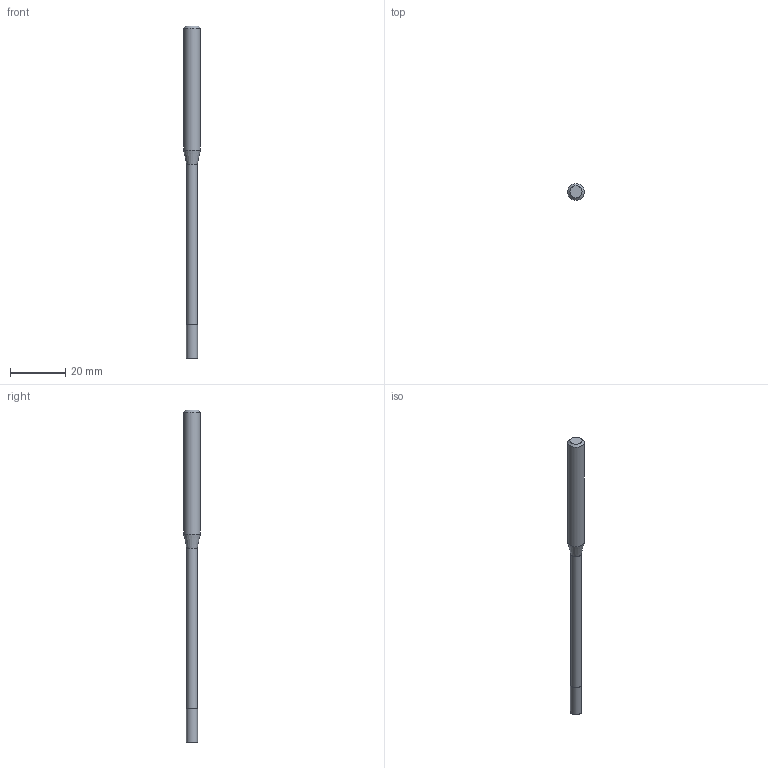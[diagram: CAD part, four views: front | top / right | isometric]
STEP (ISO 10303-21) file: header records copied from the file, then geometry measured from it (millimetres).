
FILE_DESCRIPTION((''),'2;1');
FILE_NAME('C:\Users\nsx150\Desktop\RSE230_20210427\01-00644-04070 RSE230 D4X12X70.step','2021-05-07T14:54:16',(''),(''),'STEP Write','Mastercam 2021 ... CNC Software, Inc.','');
FILE_SCHEMA(('AUTOMOTIVE_DESIGN'));
Length unit declared in the file: millimetre
Products named in the file (1): None
Bounding box: 6 x 6 x 120 mm (x, y, z)
Volume: 2169.7 mm3; surface area: 1824.7 mm2
Topology: 2 solids, 2 shells, 9 faces, 12 edges, 7 vertices
Faces by surface type: plane 4, cylinder 3, cone 2
Full cylindrical faces by diameter (mm): 3.8 x1, 4 x1, 6 x1
Entity records: 211 total; most frequent: DIRECTION 36, CARTESIAN_POINT 25, AXIS2_PLACEMENT_3D 18, ORIENTED_EDGE 14, EDGE_LOOP 14, STYLED_ITEM 12, ADVANCED_FACE 9, FACE_BOUND 8
